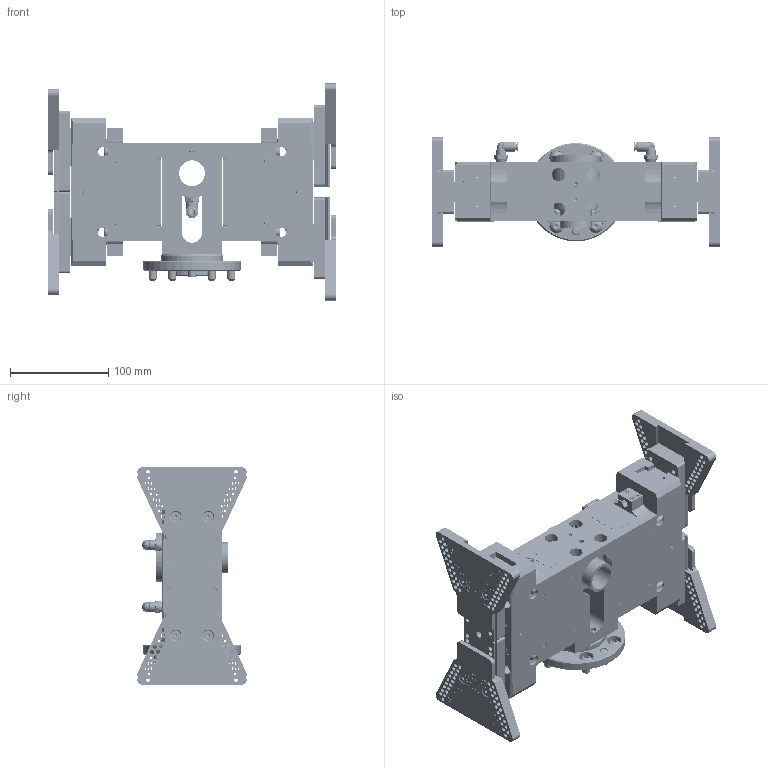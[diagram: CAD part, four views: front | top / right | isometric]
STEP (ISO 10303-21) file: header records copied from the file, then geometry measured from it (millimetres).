
FILE_DESCRIPTION (( 'STEP AP203' ), '1' );
FILE_NAME ('5012619_REV-A - LARGE PUCK FINGERS 4.00 TO 8.75 DIAM .STEP', '2024-11-07T18:36:41', ( '' ), ( '' ), 'SwSTEP 2.0', 'SolidWorks 2019', '' );
FILE_SCHEMA (( 'CONFIG_CONTROL_DESIGN' ));
Length unit declared in the file: inch
Products named in the file (28): 5001641_51495K218; M6X1.0 SET SCREW_M6x.1.0 SET SCREW x 6mm; M6x1.0 SHCS_SHCS M6-1.0 x 60; Copy of SCHUNK-9949504 limit stop for MMS-P^5012457; 5012457_04 - FLOATING; Copy of SCHUNK-5503506 Halter fuer NHS KL03^5012457; 5012619_REV-A - LARGE PUCK FINGERS 4.00 TO 8.75 DIAM ; Copy of SCHUNK-9905503 Typenschild 11x43x0.3^5012457; M8X1.25 BHCS_BHCS M8x1.25 X 14mm; Copy of SCHUNK-5524306 Abdeckblech-PGN-plus-P 125^5012457; 5010633_Default Configuration; 5012615; M6 DOWEL PIN_M6 DOWEL x 14mm; 5012630_Default Configuration; 5012467_01b - ROUND PUCK PICKING - LARGE FINGERS - FLOATING; 5005514; M8 DOWEL PIN_M8 DOWEL PIN x 16mm; 5012240; Copy of SCHUNK-1459020 finger JGP-P 125-1^5012457; 5012819_Default Configuration; Copy of SCHUNK-5524096 Deckel-PGN-plus-P 125^5012457; Copy of SCHUNK-1459019 Gehaeuse-JGP-P 125-GKS^5012457; 5010632_Default Configuration; M5x0.8 FHCS_M5x0.8 FHCS x 20mm; 5009110_Default Configuration; M6x1.0 SHCS_SHCS M6-1.0 x 22
Assembly tree (80 placements, depth 4):
  5012619_REV-A - LARGE PUCK FINGERS 4.00 TO 8.75 DIAM 
    5012615
    5012467_01b - ROUND PUCK PICKING - LARGE FINGERS - FLOATING
      5012457_04 - FLOATING
        Copy of SCHUNK-1459019 Gehaeuse-JGP-P 125-GKS^5012457
        Copy of SCHUNK-5524306 Abdeckblech-PGN-plus-P 125^5012457
        Copy of SCHUNK-5524096 Deckel-PGN-plus-P 125^5012457
        Copy of SCHUNK-9949504 limit stop for MMS-P^5012457
        Copy of SCHUNK-9905503 Typenschild 11x43x0.3^5012457
        Copy of SCHUNK-5503506 Halter fuer NHS KL03^5012457  x2
        Copy of SCHUNK-1459020 finger JGP-P 125-1^5012457  x2
      5012630_Default Configuration  x2
      M6x1.0 SHCS_SHCS M6-1.0 x 22  x4
      5005514  x2
      5012819_Default Configuration  x2
      M5x0.8 FHCS_M5x0.8 FHCS x 20mm  x4
    5012467_01b - ROUND PUCK PICKING - LARGE FINGERS - FLOATING
      5012457_04 - FLOATING
        Copy of SCHUNK-1459019 Gehaeuse-JGP-P 125-GKS^5012457
        Copy of SCHUNK-5524306 Abdeckblech-PGN-plus-P 125^5012457
        Copy of SCHUNK-5524096 Deckel-PGN-plus-P 125^5012457
        Copy of SCHUNK-9949504 limit stop for MMS-P^5012457
        Copy of SCHUNK-9905503 Typenschild 11x43x0.3^5012457
        Copy of SCHUNK-5503506 Halter fuer NHS KL03^5012457  x2
        Copy of SCHUNK-1459020 finger JGP-P 125-1^5012457  x2
      5012630_Default Configuration  x2
      M6x1.0 SHCS_SHCS M6-1.0 x 22  x4
      5005514  x2
      5012819_Default Configuration  x2
      M5x0.8 FHCS_M5x0.8 FHCS x 20mm  x4
    5001641_51495K218
    5009110_Default Configuration
    M6x1.0 SHCS_SHCS M6-1.0 x 60  x12
    M6 DOWEL PIN_M6 DOWEL x 14mm
    M6X1.0 SET SCREW_M6x.1.0 SET SCREW x 6mm  x2
    5012240
    M8X1.25 BHCS_BHCS M8x1.25 X 14mm  x6
    M8 DOWEL PIN_M8 DOWEL PIN x 16mm
    5010632_Default Configuration  x2
    5010633_Default Configuration  x2
Bounding box: 292.62 x 111.12 x 220.69 mm (x, y, z)
Volume: 2035660.8 mm3; surface area: 535143.6 mm2
Topology: 109 solids, 109 shells, 12510 faces, 32551 edges, 21273 vertices
Faces by surface type: bspline 5304, plane 4418, cylinder 1843, cone 830, torus 96, sphere 19
Entity records: 194189 total; most frequent: CARTESIAN_POINT 101448, ORIENTED_EDGE 20338, DIRECTION 14218, EDGE_CURVE 10169, VERTEX_POINT 6673, VECTOR 5264, LINE 5264, EDGE_LOOP 4542
